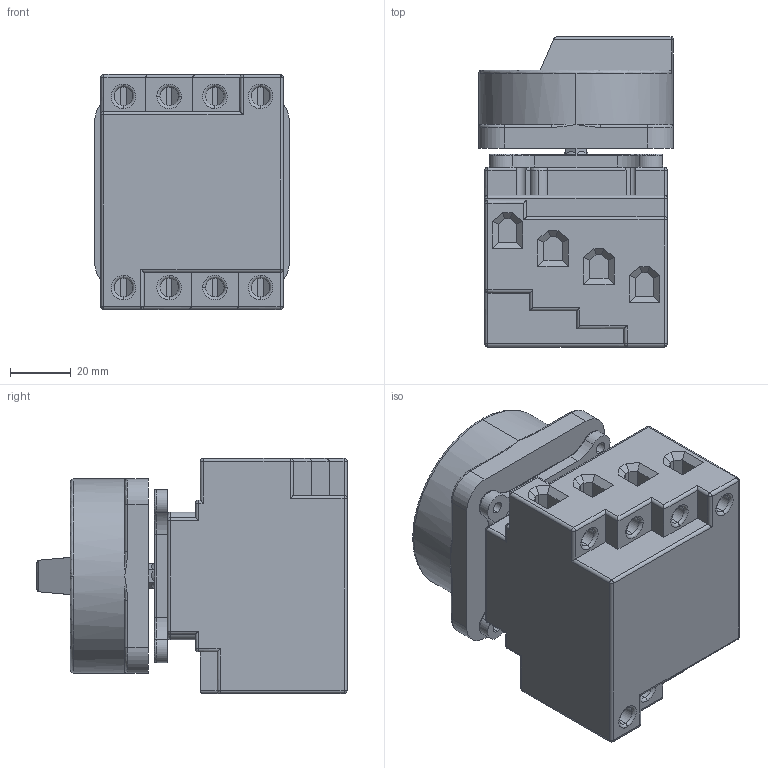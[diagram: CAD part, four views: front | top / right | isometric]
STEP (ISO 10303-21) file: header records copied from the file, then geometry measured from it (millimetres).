
FILE_DESCRIPTION (( 'STEP AP203' ), '1' );
FILE_NAME ('LS32 EH4 A4.STEP', '2014-05-20T06:13:20', ( '' ), ( '' ), 'SwSTEP 2.0', 'SolidWorks 2014', '' );
FILE_SCHEMA (( 'CONFIG_CONTROL_DESIGN' ));
Length unit declared in the file: millimetre
Products named in the file (3): Dummie Schalterkörper E64; Dummie Griff SV4; LS32 EH4 A4
Assembly tree (2 placements, depth 2):
  LS32 EH4 A4
    Dummie Schalterkörper E64
    Dummie Griff SV4
Bounding box: 64 x 102.1 x 77.4 mm (x, y, z)
Volume: 302562.7 mm3; surface area: 51176.4 mm2
Topology: 2 solids, 3 shells, 430 faces, 1068 edges, 628 vertices
Faces by surface type: plane 201, cylinder 142, bspline 79, cone 8
Entity records: 18481 total; most frequent: CARTESIAN_POINT 8495, ORIENTED_EDGE 2104, DIRECTION 1947, EDGE_CURVE 1052, AXIS2_PLACEMENT_3D 678, VERTEX_POINT 628, VECTOR 591, LINE 591
